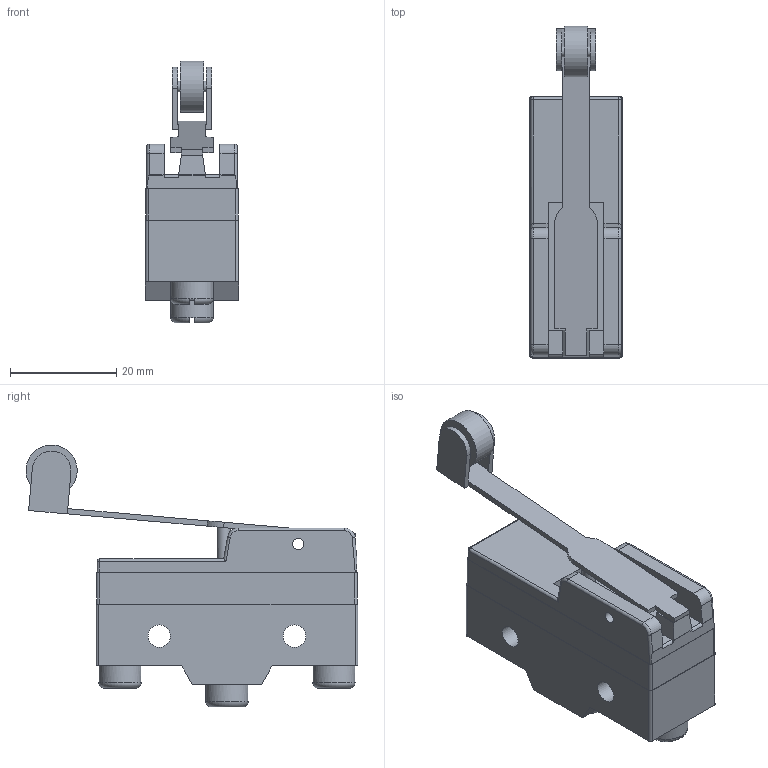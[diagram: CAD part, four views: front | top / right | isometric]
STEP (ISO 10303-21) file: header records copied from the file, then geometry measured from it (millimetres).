
FILE_DESCRIPTION(/* description */ (''),/* implementation_level */ '2;1');
FILE_NAME(/* name */ 'E:\Inventor 2016\제품 외형도\(\X2\C644B8CC\X0\) 리미트 스위치\직류용 마이크로 스위치 (Z형)\YSR1210GW-B.stp',/* time_stamp */ '2019-04-09T10:04:49+09:00',/* author */ ('Kim'),/* organization */ (''),/* preprocessor_version */ 'ST-DEVELOPER v16.1',/* originating_system */ 'Autodesk Inventor 2016',/* authorisation */ '');
FILE_SCHEMA (('AUTOMOTIVE_DESIGN { 1 0 10303 214 3 1 1 }'));
Length unit declared in the file: millimetre
Products named in the file (1): YSR1210GW-B
Bounding box: 17.5 x 62.32 x 49.18 mm (x, y, z)
Volume: 19610.4 mm3; surface area: 7646.6 mm2
Topology: 1 solids, 1 shells, 151 faces, 395 edges, 255 vertices
Faces by surface type: plane 96, cylinder 43, torus 10, sphere 2
Full cylindrical faces by diameter (mm): 2 x2, 2.1 x2, 2.5 x1, 4.2 x2, 8 x3, 9.6 x1
Entity records: 4715 total; most frequent: CARTESIAN_POINT 887, DIRECTION 775, ORIENTED_EDGE 756, EDGE_CURVE 378, LINE 261, VECTOR 261, AXIS2_PLACEMENT_3D 257, VERTEX_POINT 249
